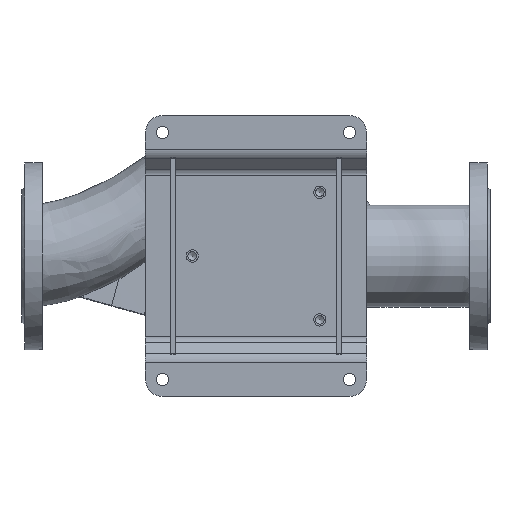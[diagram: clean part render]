
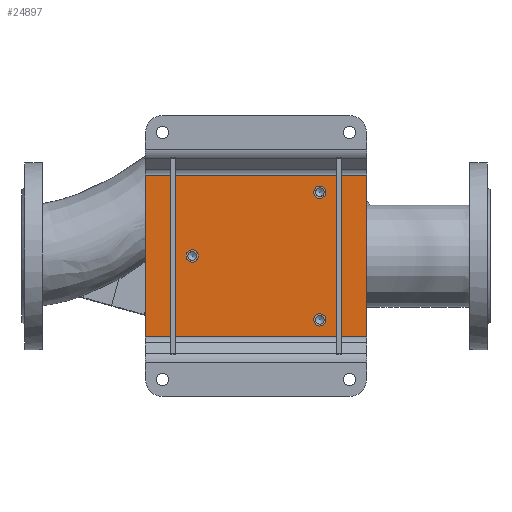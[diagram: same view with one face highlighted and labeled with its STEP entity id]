
A CAD part, top view. The second image highlights one B-rep face of the part: STEP entity #24897.
In plain terms, the highlighted planar face has unit normal (0, 0, 1) as drawn and (0, -1, 0) by its records, which use the part's own axes.
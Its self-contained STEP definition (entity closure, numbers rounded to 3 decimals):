
#2576 = ORIENTED_EDGE ( 'NONE', *, *, #50605, .F. ) ;
#3608 = FACE_BOUND ( 'NONE', #25116, .T. ) ;
#7433 = DIRECTION ( 'NONE',  ( 0., 0., -1. ) ) ;
#8255 = EDGE_LOOP ( 'NONE', ( #31682, #16820, #74773, #13653 ) ) ;
#9080 = EDGE_LOOP ( 'NONE', ( #34316 ) ) ;
#9385 = CARTESIAN_POINT ( 'NONE',  ( -75., -5., 75. ) ) ;
#10317 = AXIS2_PLACEMENT_3D ( 'NONE', #40044, #47110, #59523 ) ;
#11540 = DIRECTION ( 'NONE',  ( 0., 0., -1. ) ) ;
#13284 = LINE ( 'NONE', #47501, #45904 ) ;
#13653 = ORIENTED_EDGE ( 'NONE', *, *, #30306, .F. ) ;
#14285 = CIRCLE ( 'NONE', #35649, 7.25 ) ;
#14458 = VERTEX_POINT ( 'NONE', #68588 ) ;
#16820 = ORIENTED_EDGE ( 'NONE', *, *, #36423, .F. ) ;
#18193 = CARTESIAN_POINT ( 'NONE',  ( 0., -5., 0. ) ) ;
#20503 = VERTEX_POINT ( 'NONE', #62034 ) ;
#22934 = CARTESIAN_POINT ( 'NONE',  ( -95., -5., -130. ) ) ;
#23723 = ORIENTED_EDGE ( 'NONE', *, *, #73655, .F. ) ;
#24897 = ADVANCED_FACE ( 'NONE', ( #3608, #30697, #57750, #44505 ), #51952, .T. ) ;
#25116 = EDGE_LOOP ( 'NONE', ( #23723 ) ) ;
#25429 = DIRECTION ( 'NONE',  ( 0., 0., -1. ) ) ;
#30306 = EDGE_CURVE ( 'NONE', #71922, #47085, #83784, .T. ) ;
#30697 = FACE_BOUND ( 'NONE', #9080, .T. ) ;
#31682 = ORIENTED_EDGE ( 'NONE', *, *, #39982, .F. ) ;
#32119 = DIRECTION ( 'NONE',  ( 0., -1., 0. ) ) ;
#34316 = ORIENTED_EDGE ( 'NONE', *, *, #85663, .F. ) ;
#35649 = AXIS2_PLACEMENT_3D ( 'NONE', #9385, #87806, #7433 ) ;
#36423 = EDGE_CURVE ( 'NONE', #37321, #20503, #69330, .T. ) ;
#37268 = CARTESIAN_POINT ( 'NONE',  ( -75., -5., 67.75 ) ) ;
#37321 = VERTEX_POINT ( 'NONE', #77292 ) ;
#38976 = LINE ( 'NONE', #59766, #59487 ) ;
#39982 = EDGE_CURVE ( 'NONE', #20503, #71922, #38976, .T. ) ;
#40044 = CARTESIAN_POINT ( 'NONE',  ( 0., -5., -75. ) ) ;
#41762 = DIRECTION ( 'NONE',  ( 0., 0., 1. ) ) ;
#44505 = FACE_OUTER_BOUND ( 'NONE', #8255, .T. ) ;
#45904 = VECTOR ( 'NONE', #41762, 1000. ) ;
#47085 = VERTEX_POINT ( 'NONE', #72237 ) ;
#47110 = DIRECTION ( 'NONE',  ( 0., -1., 0. ) ) ;
#47501 = CARTESIAN_POINT ( 'NONE',  ( -95., -5., 130. ) ) ;
#50605 = EDGE_CURVE ( 'NONE', #58041, #58041, #14285, .T. ) ;
#51952 = PLANE ( 'NONE',  #58649 ) ;
#54463 = CIRCLE ( 'NONE', #64407, 7.25 ) ;
#57750 = FACE_BOUND ( 'NONE', #74434, .T. ) ;
#58041 = VERTEX_POINT ( 'NONE', #37268 ) ;
#58649 = AXIS2_PLACEMENT_3D ( 'NONE', #18193, #72335, #11540 ) ;
#59487 = VECTOR ( 'NONE', #86850, 1000. ) ;
#59523 = DIRECTION ( 'NONE',  ( 0., 0., -1. ) ) ;
#59766 = CARTESIAN_POINT ( 'NONE',  ( 95., -5., 130. ) ) ;
#62034 = CARTESIAN_POINT ( 'NONE',  ( 95., -5., 130. ) ) ;
#62711 = DIRECTION ( 'NONE',  ( 1., 0., 0. ) ) ;
#64216 = DIRECTION ( 'NONE',  ( -1., 0., 0. ) ) ;
#64407 = AXIS2_PLACEMENT_3D ( 'NONE', #65830, #32119, #25429 ) ;
#64997 = VECTOR ( 'NONE', #62711, 1000. ) ;
#65830 = CARTESIAN_POINT ( 'NONE',  ( 75., -5., 75. ) ) ;
#66977 = CIRCLE ( 'NONE', #10317, 7.25 ) ;
#68588 = CARTESIAN_POINT ( 'NONE',  ( 75., -5., 67.75 ) ) ;
#69330 = LINE ( 'NONE', #83603, #64997 ) ;
#71922 = VERTEX_POINT ( 'NONE', #73937 ) ;
#72237 = CARTESIAN_POINT ( 'NONE',  ( -95., -5., -130. ) ) ;
#72335 = DIRECTION ( 'NONE',  ( 0., -1., 0. ) ) ;
#73655 = EDGE_CURVE ( 'NONE', #14458, #14458, #54463, .T. ) ;
#73937 = CARTESIAN_POINT ( 'NONE',  ( 95., -5., -130. ) ) ;
#74434 = EDGE_LOOP ( 'NONE', ( #2576 ) ) ;
#74773 = ORIENTED_EDGE ( 'NONE', *, *, #75444, .F. ) ;
#75444 = EDGE_CURVE ( 'NONE', #47085, #37321, #13284, .T. ) ;
#75724 = VERTEX_POINT ( 'NONE', #76168 ) ;
#76168 = CARTESIAN_POINT ( 'NONE',  ( 0., -5., -82.25 ) ) ;
#77292 = CARTESIAN_POINT ( 'NONE',  ( -95., -5., 130. ) ) ;
#83226 = VECTOR ( 'NONE', #64216, 1000. ) ;
#83603 = CARTESIAN_POINT ( 'NONE',  ( -95., -5., 130. ) ) ;
#83784 = LINE ( 'NONE', #22934, #83226 ) ;
#85663 = EDGE_CURVE ( 'NONE', #75724, #75724, #66977, .T. ) ;
#86850 = DIRECTION ( 'NONE',  ( 0., 0., -1. ) ) ;
#87806 = DIRECTION ( 'NONE',  ( 0., -1., 0. ) ) ;
